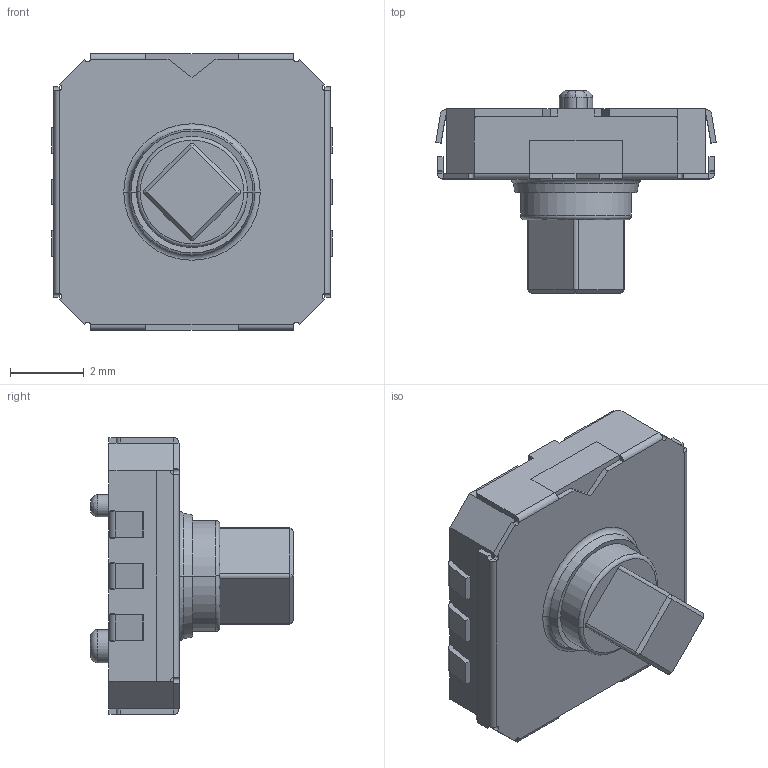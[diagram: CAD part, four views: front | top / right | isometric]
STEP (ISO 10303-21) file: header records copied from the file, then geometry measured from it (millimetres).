
FILE_DESCRIPTION((''),'2;1');
FILE_NAME('JQH7575A-C0501-EG-1-406_ASM','2026-05-18T09:46:58',('Admin'),(''),'CREO PARAMETRIC BY PTC INC, 2019224','CREO PARAMETRIC BY PTC INC, 2019224','');
FILE_SCHEMA(('AUTOMOTIVE_DESIGN { 1 0 10303 214 1 1 1 1 }'));
Length unit declared in the file: millimetre
Products named in the file (3): JQH7575A-C0501-EG-1-406_01; JQH7575A-C0501-EG-1-406_02; JQH7575A-C0501-EG-1-406_ASM
Assembly tree (2 placements, depth 2):
  JQH7575A-C0501-EG-1-406_ASM
    JQH7575A-C0501-EG-1-406_01
    JQH7575A-C0501-EG-1-406_02
Bounding box: 7.6 x 5.5 x 7.5 mm (x, y, z)
Volume: 113.4 mm3; surface area: 328.2 mm2
Topology: 2 solids, 2 shells, 225 faces, 597 edges, 376 vertices
Faces by surface type: plane 161, cylinder 44, cone 10, torus 8, bspline 2
Entity records: 8728 total; most frequent: CARTESIAN_POINT 1258, ORIENTED_EDGE 1178, DIRECTION 1177, EDGE_CURVE 589, VECTOR 477, LINE 477, PRESENTATION_STYLE_ASSIGNMENT 423, STYLED_ITEM 381
